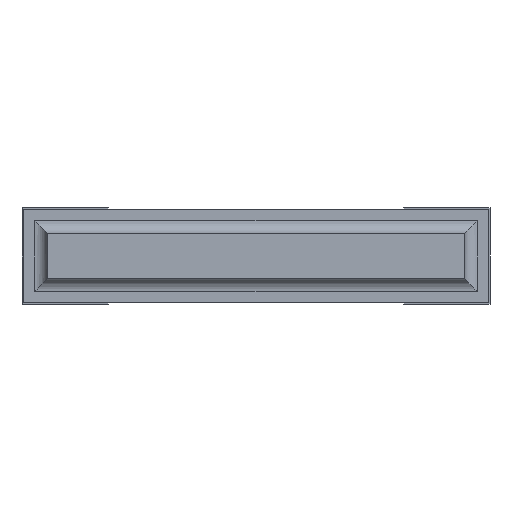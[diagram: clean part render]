
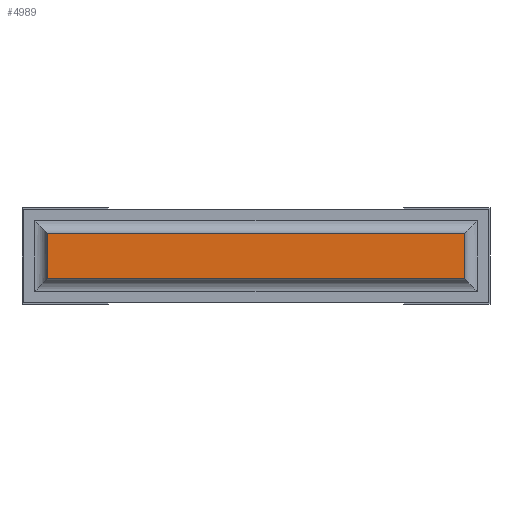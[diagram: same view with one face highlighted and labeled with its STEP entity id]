
A CAD part, front view. The second image highlights one B-rep face of the part: STEP entity #4989.
In plain terms, the highlighted planar face has unit normal (0, -1, 0).
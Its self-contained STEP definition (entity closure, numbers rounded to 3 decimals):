
#199=FACE_OUTER_BOUND('',#509,.T.);
#509=EDGE_LOOP('',(#3335,#3336,#3337,#3338));
#829=LINE('',#7111,#1481);
#838=LINE('',#7139,#1490);
#845=LINE('',#7156,#1497);
#846=LINE('',#7158,#1498);
#1481=VECTOR('',#5707,10.);
#1490=VECTOR('',#5732,10.);
#1497=VECTOR('',#5749,10.);
#1498=VECTOR('',#5752,10.);
#2133=VERTEX_POINT('',#7108);
#2134=VERTEX_POINT('',#7110);
#2145=VERTEX_POINT('',#7138);
#2150=VERTEX_POINT('',#7154);
#2589=EDGE_CURVE('',#2134,#2133,#829,.T.);
#2602=EDGE_CURVE('',#2134,#2145,#838,.T.);
#2611=EDGE_CURVE('',#2150,#2133,#845,.T.);
#2612=EDGE_CURVE('',#2145,#2150,#846,.T.);
#3335=ORIENTED_EDGE('',*,*,#2611,.F.);
#3336=ORIENTED_EDGE('',*,*,#2612,.F.);
#3337=ORIENTED_EDGE('',*,*,#2602,.F.);
#3338=ORIENTED_EDGE('',*,*,#2589,.T.);
#4739=PLANE('',#5341);
#4989=ADVANCED_FACE('',(#199),#4739,.T.);
#5341=AXIS2_PLACEMENT_3D('',#7157,#5750,#5751);
#5707=DIRECTION('',(0.,0.,-1.));
#5732=DIRECTION('',(1.,0.,0.));
#5749=DIRECTION('',(-1.,0.,0.));
#5750=DIRECTION('center_axis',(0.,-1.,0.));
#5751=DIRECTION('ref_axis',(0.,0.,-1.));
#5752=DIRECTION('',(0.,0.,-1.));
#7108=CARTESIAN_POINT('',(0.1,0.,0.16));
#7110=CARTESIAN_POINT('',(0.1,0.,0.34));
#7111=CARTESIAN_POINT('',(0.1,0.,0.34));
#7138=CARTESIAN_POINT('',(1.75,0.,0.34));
#7139=CARTESIAN_POINT('',(0.1,0.,0.34));
#7154=CARTESIAN_POINT('',(1.75,0.,0.16));
#7156=CARTESIAN_POINT('',(1.75,0.,0.16));
#7157=CARTESIAN_POINT('Origin',(1.75,0.,0.25));
#7158=CARTESIAN_POINT('',(1.75,0.,0.34));
